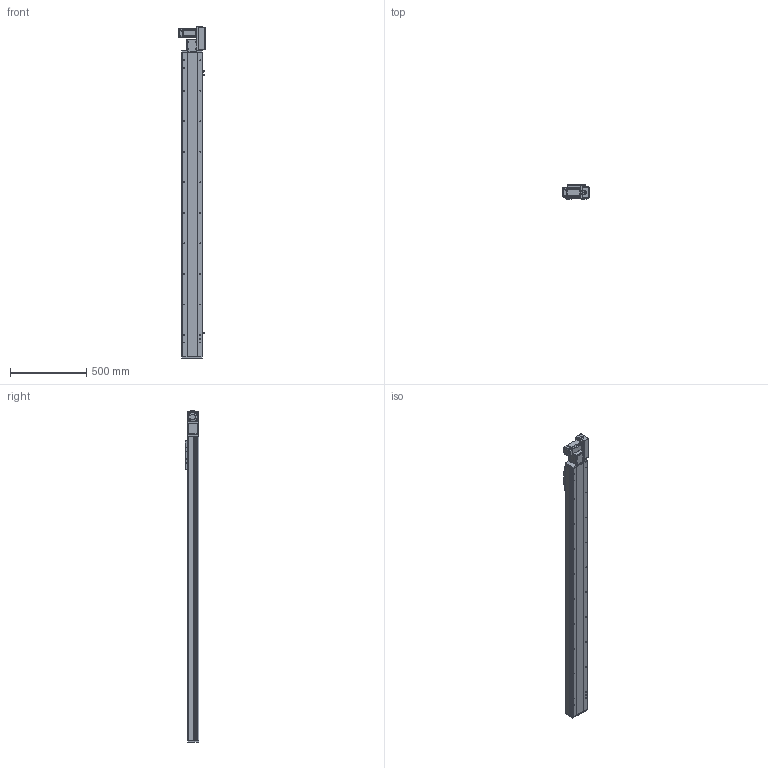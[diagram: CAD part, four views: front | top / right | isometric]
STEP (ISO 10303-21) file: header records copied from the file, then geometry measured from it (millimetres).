
FILE_DESCRIPTION (( 'STEP AP214' ), '1' );
FILE_NAME ('TPE14-L40-1700-R-T40-C4.STEP', '2023-04-13T05:58:32', ( '' ), ( '' ), 'SwSTEP 2.0', 'SolidWorks 2020', '' );
FILE_SCHEMA (( 'AUTOMOTIVE_DESIGN' ));
Length unit declared in the file: millimetre
Products named in the file (10): hexagon head bolts-full thread gb_GB_FASTENER_BOLT_STBAB A M5X16-N; 葩璃 侂狟400W^TPE14-L40-R-T40-C4; 葩璃 TPE14-L-007 々湍釱MZ-169x88^TPE14-L40-R-T40-C4_YCB14; 葩璃 pm-t65-672^TPE14-L40-R-T40-C4; 葩璃 詩湍75^TPE14-L40-R-T40-C4; 葩璃 TPT14-L-009 萇儂啣^TPE14-L40-R-T40-C4_400W; TPE14-L40-1700-R-T40-C4; 葩璃 TPE14 賑雄殤^TPE14-L40-R-T40-C4; 葩璃 TPE14-L-001 菁釱MZ-135-01^TPE14-L40-R-T40-C4; 葩璃 TPE14-L-002 耜裔ZTMZ-135-04^TPE14-L40-R-T40-C4
Assembly tree (12 placements, depth 2):
  TPE14-L40-1700-R-T40-C4
    葩璃 TPE14-L-001 菁釱MZ-135-01^TPE14-L40-R-T40-C4
    葩璃 TPE14-L-002 耜裔ZTMZ-135-04^TPE14-L40-R-T40-C4  x2
    葩璃 詩湍75^TPE14-L40-R-T40-C4
    葩璃 TPE14-L-007 々湍釱MZ-169x88^TPE14-L40-R-T40-C4_YCB14
    葩璃 TPT14-L-009 萇儂啣^TPE14-L40-R-T40-C4_400W
    葩璃 TPE14 賑雄殤^TPE14-L40-R-T40-C4
    葩璃 pm-t65-672^TPE14-L40-R-T40-C4  x3
    葩璃 侂狟400W^TPE14-L40-R-T40-C4
    hexagon head bolts-full thread gb_GB_FASTENER_BOLT_STBAB A M5X16-N
Bounding box: 172.5 x 91 x 2175.15 mm (x, y, z)
Volume: 10507896.1 mm3; surface area: 2010072.8 mm2
Topology: 23 solids, 23 shells, 1444 faces, 3747 edges, 2370 vertices
Faces by surface type: plane 823, cylinder 437, cone 150, bspline 34
Entity records: 38603 total; most frequent: CARTESIAN_POINT 7490, DIRECTION 6168, ORIENTED_EDGE 5954, EDGE_CURVE 2977, AXIS2_PLACEMENT_3D 2102, LINE 1964, VECTOR 1964, VERTEX_POINT 1918
